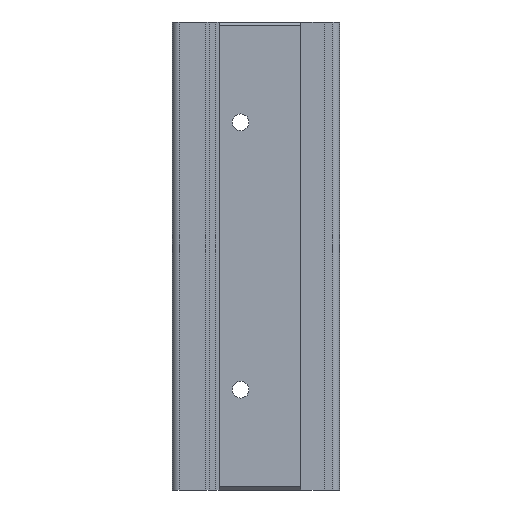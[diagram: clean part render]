
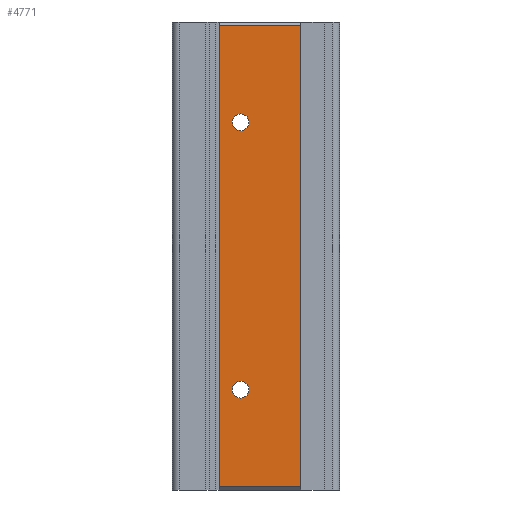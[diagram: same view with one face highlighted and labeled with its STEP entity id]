
A CAD part, left-side view. The second image highlights one B-rep face of the part: STEP entity #4771.
In plain terms, the highlighted planar face has unit normal (-1, 0, 0).
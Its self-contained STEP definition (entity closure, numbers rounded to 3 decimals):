
#94 = VERTEX_POINT ( 'NONE', #7987 ) ;
#227 = VERTEX_POINT ( 'NONE', #1354 ) ;
#254 = FACE_OUTER_BOUND ( 'NONE', #3309, .T. ) ;
#439 = DIRECTION ( 'NONE',  ( 0., 0., 1. ) ) ;
#473 = DIRECTION ( 'NONE',  ( -1., 0., 0. ) ) ;
#484 = CIRCLE ( 'NONE', #7281, 1.25 ) ;
#732 = DIRECTION ( 'NONE',  ( 0., 0., -1. ) ) ;
#767 = FACE_BOUND ( 'NONE', #6195, .T. ) ;
#1010 = DIRECTION ( 'NONE',  ( -1., 0., 0. ) ) ;
#1045 = LINE ( 'NONE', #5843, #7225 ) ;
#1070 = VERTEX_POINT ( 'NONE', #2381 ) ;
#1071 = VECTOR ( 'NONE', #6545, 1000. ) ;
#1145 = AXIS2_PLACEMENT_3D ( 'NONE', #8263, #1010, #2274 ) ;
#1354 = CARTESIAN_POINT ( 'NONE',  ( -28., 14.8, 18.75 ) ) ;
#1507 = DIRECTION ( 'NONE',  ( 0., 0., 1. ) ) ;
#1634 = EDGE_CURVE ( 'NONE', #5737, #3606, #1045, .T. ) ;
#1636 = EDGE_CURVE ( 'NONE', #8001, #1070, #4084, .T. ) ;
#1666 = LINE ( 'NONE', #6941, #3133 ) ;
#1702 = VERTEX_POINT ( 'NONE', #4739 ) ;
#2079 = EDGE_CURVE ( 'NONE', #2929, #1702, #2615, .T. ) ;
#2274 = DIRECTION ( 'NONE',  ( 0., 0., 1. ) ) ;
#2310 = VECTOR ( 'NONE', #5304, 1000. ) ;
#2381 = CARTESIAN_POINT ( 'NONE',  ( -28., 5.8, -34.5 ) ) ;
#2504 = CARTESIAN_POINT ( 'NONE',  ( -28., 5.8, -34.5 ) ) ;
#2555 = EDGE_CURVE ( 'NONE', #8001, #5737, #1666, .T. ) ;
#2615 = CIRCLE ( 'NONE', #1145, 1.25 ) ;
#2644 = CARTESIAN_POINT ( 'NONE',  ( -28., 14.8, -18.75 ) ) ;
#2716 = CARTESIAN_POINT ( 'NONE',  ( -28., 18., -34.5 ) ) ;
#2767 = DIRECTION ( 'NONE',  ( 0., 0., 1. ) ) ;
#2838 = EDGE_CURVE ( 'NONE', #3606, #1070, #3066, .T. ) ;
#2929 = VERTEX_POINT ( 'NONE', #2644 ) ;
#3066 = LINE ( 'NONE', #2504, #1071 ) ;
#3133 = VECTOR ( 'NONE', #5007, 1000. ) ;
#3309 = EDGE_LOOP ( 'NONE', ( #6041, #6672, #4418, #3903 ) ) ;
#3606 = VERTEX_POINT ( 'NONE', #2716 ) ;
#3700 = CARTESIAN_POINT ( 'NONE',  ( -28., 18., 34.5 ) ) ;
#3816 = EDGE_CURVE ( 'NONE', #94, #227, #484, .T. ) ;
#3903 = ORIENTED_EDGE ( 'NONE', *, *, #2838, .T. ) ;
#3975 = AXIS2_PLACEMENT_3D ( 'NONE', #7382, #7467, #2767 ) ;
#4084 = LINE ( 'NONE', #6738, #2310 ) ;
#4180 = EDGE_CURVE ( 'NONE', #227, #94, #6227, .T. ) ;
#4418 = ORIENTED_EDGE ( 'NONE', *, *, #1634, .T. ) ;
#4739 = CARTESIAN_POINT ( 'NONE',  ( -28., 14.8, -21.25 ) ) ;
#4771 = ADVANCED_FACE ( 'NONE', ( #6120, #767, #254 ), #5509, .T. ) ;
#4934 = CIRCLE ( 'NONE', #3975, 1.25 ) ;
#5007 = DIRECTION ( 'NONE',  ( 0., 1., 0. ) ) ;
#5026 = AXIS2_PLACEMENT_3D ( 'NONE', #6023, #8037, #6779 ) ;
#5108 = CARTESIAN_POINT ( 'NONE',  ( -28., 5.8, 34.5 ) ) ;
#5304 = DIRECTION ( 'NONE',  ( 0., 0., -1. ) ) ;
#5509 = PLANE ( 'NONE',  #8291 ) ;
#5540 = EDGE_CURVE ( 'NONE', #1702, #2929, #4934, .T. ) ;
#5737 = VERTEX_POINT ( 'NONE', #3700 ) ;
#5843 = CARTESIAN_POINT ( 'NONE',  ( -28., 18., 35. ) ) ;
#5938 = ORIENTED_EDGE ( 'NONE', *, *, #2079, .F. ) ;
#6023 = CARTESIAN_POINT ( 'NONE',  ( -28., 14.8, 20. ) ) ;
#6041 = ORIENTED_EDGE ( 'NONE', *, *, #1636, .F. ) ;
#6120 = FACE_BOUND ( 'NONE', #8516, .T. ) ;
#6195 = EDGE_LOOP ( 'NONE', ( #5938, #6740 ) ) ;
#6227 = CIRCLE ( 'NONE', #5026, 1.25 ) ;
#6545 = DIRECTION ( 'NONE',  ( 0., -1., 0. ) ) ;
#6637 = ORIENTED_EDGE ( 'NONE', *, *, #4180, .F. ) ;
#6672 = ORIENTED_EDGE ( 'NONE', *, *, #2555, .T. ) ;
#6738 = CARTESIAN_POINT ( 'NONE',  ( -28., 5.8, 35. ) ) ;
#6740 = ORIENTED_EDGE ( 'NONE', *, *, #5540, .F. ) ;
#6779 = DIRECTION ( 'NONE',  ( 0., 0., 1. ) ) ;
#6823 = CARTESIAN_POINT ( 'NONE',  ( -28., 0., 35. ) ) ;
#6941 = CARTESIAN_POINT ( 'NONE',  ( -28., 0., 34.5 ) ) ;
#7137 = CARTESIAN_POINT ( 'NONE',  ( -28., 14.8, 20. ) ) ;
#7225 = VECTOR ( 'NONE', #732, 1000. ) ;
#7281 = AXIS2_PLACEMENT_3D ( 'NONE', #7137, #473, #439 ) ;
#7382 = CARTESIAN_POINT ( 'NONE',  ( -28., 14.8, -20. ) ) ;
#7467 = DIRECTION ( 'NONE',  ( -1., 0., 0. ) ) ;
#7758 = ORIENTED_EDGE ( 'NONE', *, *, #3816, .F. ) ;
#7987 = CARTESIAN_POINT ( 'NONE',  ( -28., 14.8, 21.25 ) ) ;
#8001 = VERTEX_POINT ( 'NONE', #5108 ) ;
#8037 = DIRECTION ( 'NONE',  ( -1., 0., 0. ) ) ;
#8257 = DIRECTION ( 'NONE',  ( -1., 0., 0. ) ) ;
#8263 = CARTESIAN_POINT ( 'NONE',  ( -28., 14.8, -20. ) ) ;
#8291 = AXIS2_PLACEMENT_3D ( 'NONE', #6823, #8257, #1507 ) ;
#8516 = EDGE_LOOP ( 'NONE', ( #7758, #6637 ) ) ;
